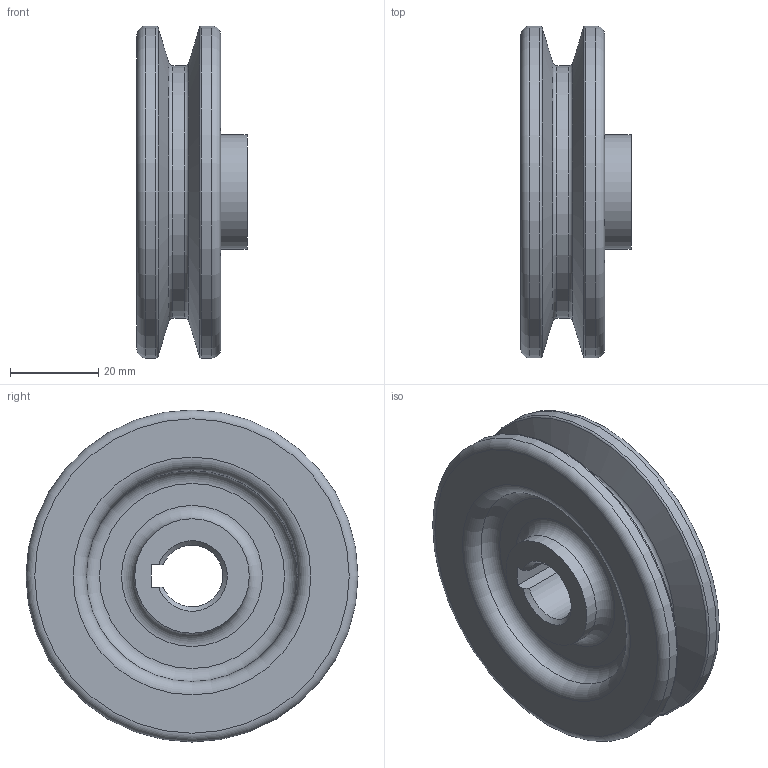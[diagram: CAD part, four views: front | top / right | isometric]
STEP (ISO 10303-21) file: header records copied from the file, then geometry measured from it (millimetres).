
FILE_DESCRIPTION(/* description */ (''),/* implementation_level */ '2;1');
FILE_NAME(/* name */ '',/* time_stamp */ '2026-07-30T15:26:06+09:00',/* author */ ('jhkim'),/* organization */ (''),/* preprocessor_version */ 'ST-DEVELOPER v20.1',/* originating_system */ 'Autodesk Inventor 2027',/* authorisation */ '');
FILE_SCHEMA (('AUTOMOTIVE_DESIGN { 1 0 10303 214 3 1 1 }'));
Length unit declared in the file: millimetre
Products named in the file (1): V 벨트 풀리
Bounding box: 25 x 75.4 x 75.4 mm (x, y, z)
Volume: 55219.5 mm3; surface area: 18444.6 mm2
Topology: 1 solids, 1 shells, 31 faces, 74 edges, 49 vertices
Faces by surface type: torus 12, plane 9, cylinder 6, cone 4
Full cylindrical faces by diameter (mm): 26 x2, 57.4 x1, 75.4 x2
Entity records: 976 total; most frequent: DIRECTION 187, CARTESIAN_POINT 163, ORIENTED_EDGE 148, AXIS2_PLACEMENT_3D 85, EDGE_CURVE 74, CIRCLE 53, VERTEX_POINT 49, EDGE_LOOP 37
